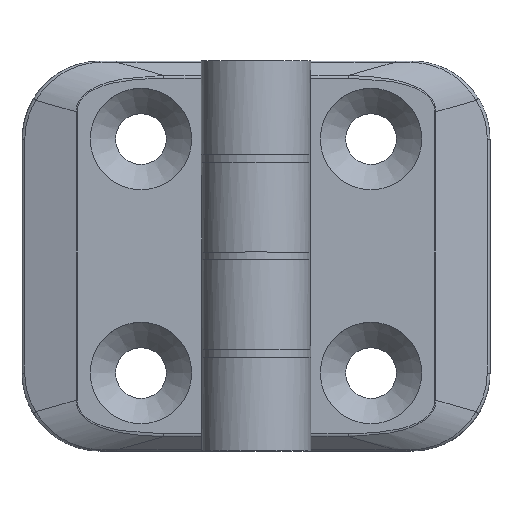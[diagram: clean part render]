
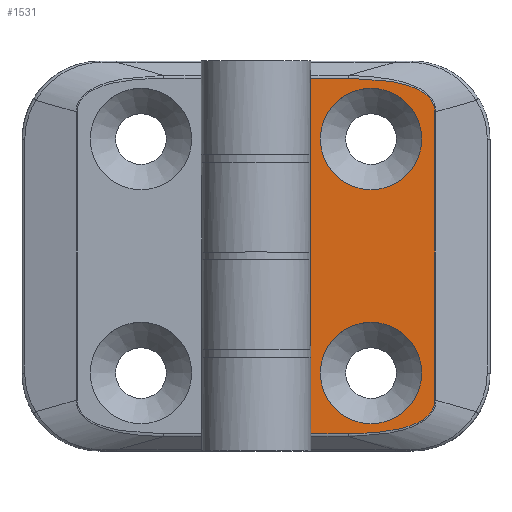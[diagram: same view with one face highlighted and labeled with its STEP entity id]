
A CAD part, top view. The second image highlights one B-rep face of the part: STEP entity #1531.
In plain terms, the highlighted planar face has unit normal (0, 0, 1) as drawn and (0, 1, 0) by its records, which use the part's own axes.
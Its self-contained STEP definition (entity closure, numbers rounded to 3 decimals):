
#38=FACE_BOUND('',#292,.T.);
#39=FACE_BOUND('',#293,.T.);
#91=PLANE('',#1661);
#131=ELLIPSE('',#1644,35.862,9.5);
#132=ELLIPSE('',#1648,35.862,9.5);
#187=FACE_OUTER_BOUND('',#291,.T.);
#291=EDGE_LOOP('',(#1153,#1154,#1155,#1156,#1157,#1158,#1159,#1160,#1161,
#1162));
#292=EDGE_LOOP('',(#1163));
#293=EDGE_LOOP('',(#1164));
#430=LINE('',#2505,#522);
#443=LINE('',#2538,#535);
#444=LINE('',#2565,#536);
#445=LINE('',#2599,#537);
#447=LINE('',#2604,#539);
#450=LINE('',#2615,#542);
#457=LINE('',#2636,#549);
#458=LINE('',#2637,#550);
#522=VECTOR('',#1859,10.793);
#535=VECTOR('',#1892,4.861);
#536=VECTOR('',#1901,36.985);
#537=VECTOR('',#1908,4.933);
#539=VECTOR('',#1912,0.072);
#542=VECTOR('',#1921,13.5);
#549=VECTOR('',#1944,9.793);
#550=VECTOR('',#1945,11.5);
#627=CIRCLE('',#1662,6.5);
#628=CIRCLE('',#1663,6.5);
#708=VERTEX_POINT('',#2502);
#709=VERTEX_POINT('',#2504);
#719=VERTEX_POINT('',#2536);
#720=VERTEX_POINT('',#2559);
#721=VERTEX_POINT('',#2563);
#722=VERTEX_POINT('',#2586);
#723=VERTEX_POINT('',#2590);
#725=VERTEX_POINT('',#2603);
#729=VERTEX_POINT('',#2612);
#730=VERTEX_POINT('',#2614);
#737=VERTEX_POINT('',#2638);
#738=VERTEX_POINT('',#2640);
#861=EDGE_CURVE('',#709,#708,#430,.T.);
#878=EDGE_CURVE('',#719,#708,#443,.T.);
#880=EDGE_CURVE('',#720,#719,#131,.T.);
#882=EDGE_CURVE('',#721,#720,#444,.T.);
#884=EDGE_CURVE('',#722,#721,#132,.T.);
#886=EDGE_CURVE('',#723,#722,#445,.T.);
#888=EDGE_CURVE('',#725,#709,#447,.T.);
#893=EDGE_CURVE('',#729,#730,#450,.T.);
#904=EDGE_CURVE('',#730,#723,#457,.T.);
#905=EDGE_CURVE('',#725,#729,#458,.T.);
#906=EDGE_CURVE('',#737,#737,#627,.T.);
#907=EDGE_CURVE('',#738,#738,#628,.T.);
#1153=ORIENTED_EDGE('',*,*,#886,.F.);
#1154=ORIENTED_EDGE('',*,*,#904,.F.);
#1155=ORIENTED_EDGE('',*,*,#893,.F.);
#1156=ORIENTED_EDGE('',*,*,#905,.F.);
#1157=ORIENTED_EDGE('',*,*,#888,.T.);
#1158=ORIENTED_EDGE('',*,*,#861,.T.);
#1159=ORIENTED_EDGE('',*,*,#878,.F.);
#1160=ORIENTED_EDGE('',*,*,#880,.F.);
#1161=ORIENTED_EDGE('',*,*,#882,.F.);
#1162=ORIENTED_EDGE('',*,*,#884,.F.);
#1163=ORIENTED_EDGE('',*,*,#906,.T.);
#1164=ORIENTED_EDGE('',*,*,#907,.F.);
#1531=ADVANCED_FACE('',(#187,#38,#39),#91,.T.);
#1644=AXIS2_PLACEMENT_3D('',#2561,#1895,#1896);
#1648=AXIS2_PLACEMENT_3D('',#2588,#1904,#1905);
#1661=AXIS2_PLACEMENT_3D('',#2635,#1942,#1943);
#1662=AXIS2_PLACEMENT_3D('',#2639,#1946,#1947);
#1663=AXIS2_PLACEMENT_3D('',#2641,#1948,#1949);
#1859=DIRECTION('',(0.,0.,-1.));
#1892=DIRECTION('',(1.,0.,0.));
#1895=DIRECTION('center_axis',(0.,-1.,0.));
#1896=DIRECTION('ref_axis',(-0.962,0.,-0.275));
#1901=DIRECTION('',(0.,0.,-1.));
#1904=DIRECTION('center_axis',(0.,-1.,0.));
#1905=DIRECTION('ref_axis',(-0.962,0.,0.275));
#1908=DIRECTION('',(-1.,0.,0.));
#1912=DIRECTION('',(-1.,0.,0.));
#1921=DIRECTION('',(0.,0.,1.));
#1942=DIRECTION('center_axis',(0.,1.,0.));
#1943=DIRECTION('ref_axis',(-1.,0.,0.));
#1944=DIRECTION('',(0.,0.,1.));
#1945=DIRECTION('',(0.,0.,1.));
#1946=DIRECTION('center_axis',(0.,-1.,0.));
#1947=DIRECTION('ref_axis',(1.,0.,0.));
#1948=DIRECTION('center_axis',(0.,1.,0.));
#1949=DIRECTION('ref_axis',(1.,0.,0.));
#2502=CARTESIAN_POINT('',(-7.,7.,-22.793));
#2504=CARTESIAN_POINT('',(-7.,7.,-12.));
#2505=CARTESIAN_POINT('',(-7.,7.,-12.5));
#2536=CARTESIAN_POINT('',(-11.861,7.,-22.793));
#2538=CARTESIAN_POINT('',(-3.75,7.,-22.793));
#2559=CARTESIAN_POINT('',(-22.93,7.,-18.492));
#2561=CARTESIAN_POINT('Origin',(11.651,7.,-9.358));
#2563=CARTESIAN_POINT('',(-22.93,7.,18.492));
#2565=CARTESIAN_POINT('',(-22.93,7.,0.));
#2586=CARTESIAN_POINT('',(-11.861,7.,22.793));
#2588=CARTESIAN_POINT('Origin',(11.651,7.,9.358));
#2590=CARTESIAN_POINT('',(-6.928,7.,22.793));
#2599=CARTESIAN_POINT('',(-3.75,7.,22.793));
#2603=CARTESIAN_POINT('',(-6.928,7.,-12.));
#2604=CARTESIAN_POINT('',(-3.5,7.,-12.));
#2612=CARTESIAN_POINT('',(-6.928,7.,-0.5));
#2614=CARTESIAN_POINT('',(-6.928,7.,13.));
#2615=CARTESIAN_POINT('',(-6.928,7.,0.));
#2635=CARTESIAN_POINT('Origin',(0.,7.,0.));
#2636=CARTESIAN_POINT('',(-6.928,7.,0.));
#2637=CARTESIAN_POINT('',(-6.928,7.,0.));
#2638=CARTESIAN_POINT('',(-8.25,7.,15.));
#2639=CARTESIAN_POINT('Origin',(-14.75,7.,15.));
#2640=CARTESIAN_POINT('',(-8.25,7.,-15.));
#2641=CARTESIAN_POINT('Origin',(-14.75,7.,-15.));
